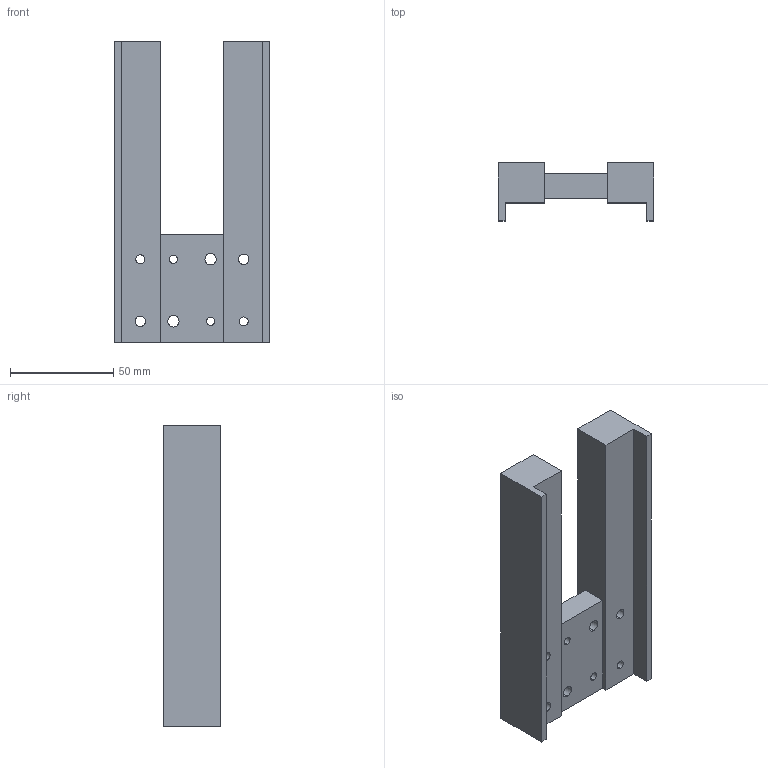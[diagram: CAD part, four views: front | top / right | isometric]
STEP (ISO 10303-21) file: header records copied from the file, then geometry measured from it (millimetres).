
FILE_DESCRIPTION (( 'STEP AP203' ), '1' );
FILE_NAME ('PPE50-P2.step', '2017-02-15T12:25:51', ( '' ), ( '' ), 'SwSTEP 2.0', 'SolidWorks 2012', '' );
FILE_SCHEMA (( 'CONFIG_CONTROL_DESIGN' ));
Length unit declared in the file: millimetre
Products named in the file (1): PPE50-P2
Bounding box: 75 x 28 x 145 mm (x, y, z)
Volume: 148736.7 mm3; surface area: 35330.5 mm2
Topology: 1 solids, 1 shells, 40 faces, 108 edges, 72 vertices
Faces by surface type: cylinder 20, plane 20
Entity records: 1381 total; most frequent: DIRECTION 230, CARTESIAN_POINT 221, ORIENTED_EDGE 216, EDGE_CURVE 108, AXIS2_PLACEMENT_3D 81, VERTEX_POINT 72, LINE 68, VECTOR 68
